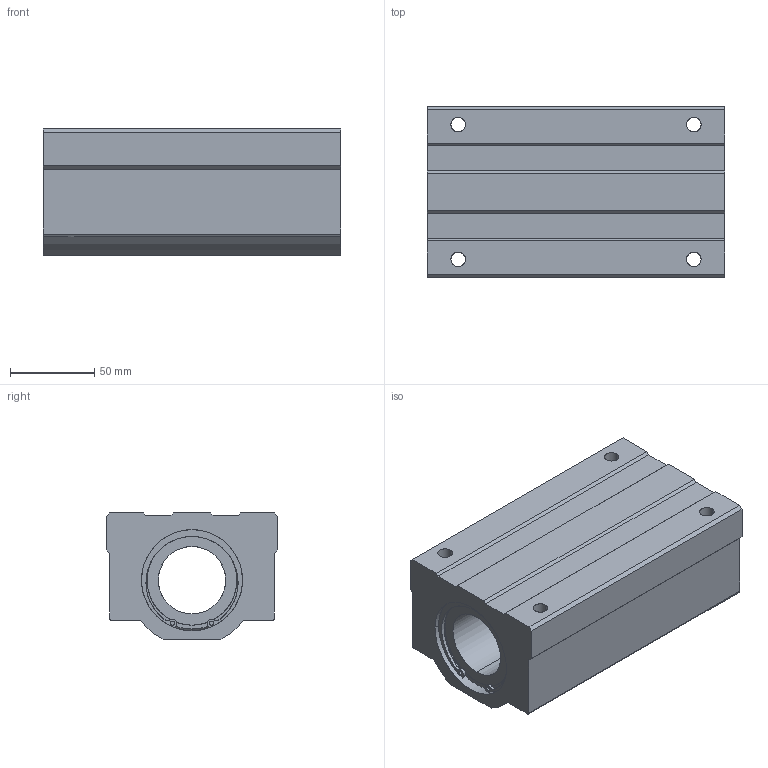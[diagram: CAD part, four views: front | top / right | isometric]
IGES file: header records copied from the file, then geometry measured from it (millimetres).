
Global section: file name: No Iges File Name specified; native system: AutoDesk Inventor R11.0; preprocessor: AutoDesk Inventor Iges Exporter R11.0; author: No Author specified; organization: No Organization specified; date: 20170921.153436; units: millimetre
Bounding box: 177 x 102 x 75 mm (x, y, z)
Surface area: 104800.8 mm2 (no closed solid volume)
Topology: 0 solids, 0 shells, 106 faces, 760 edges, 760 vertices
Faces by surface type: bspline 106
